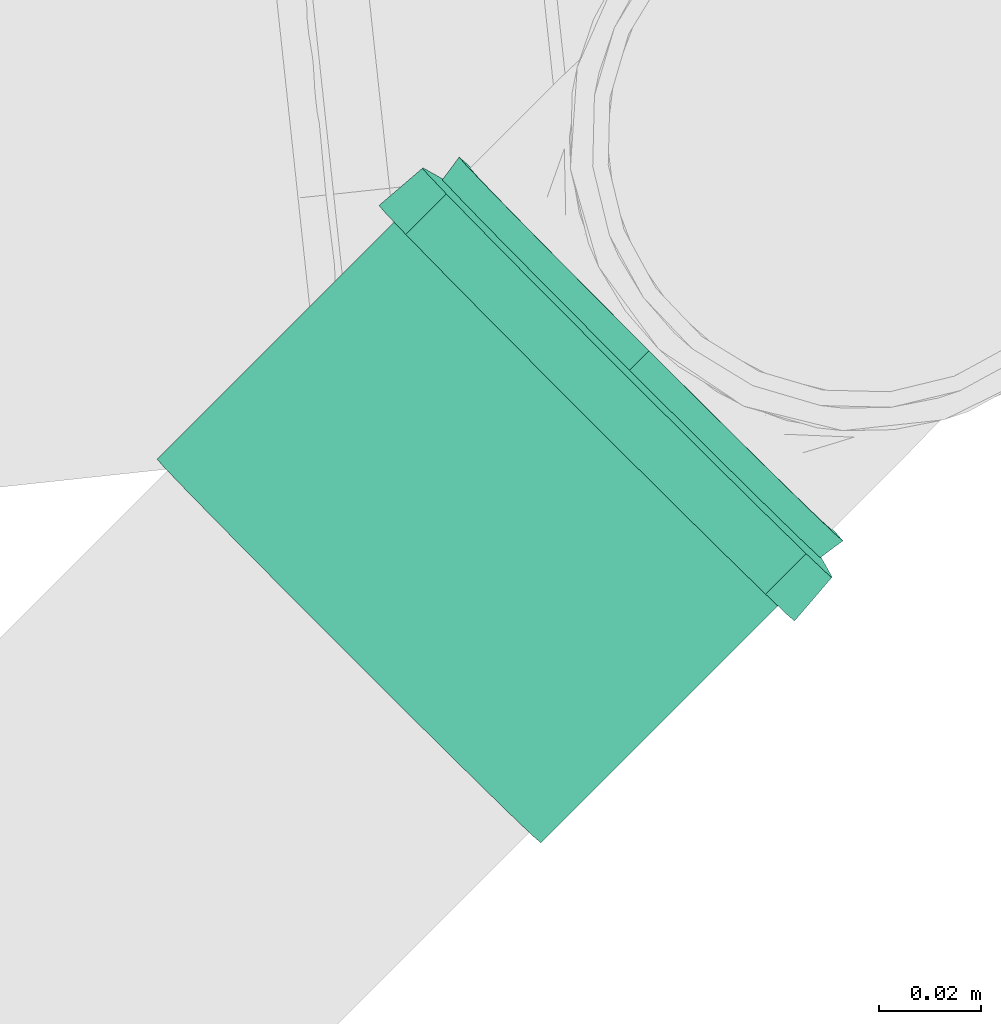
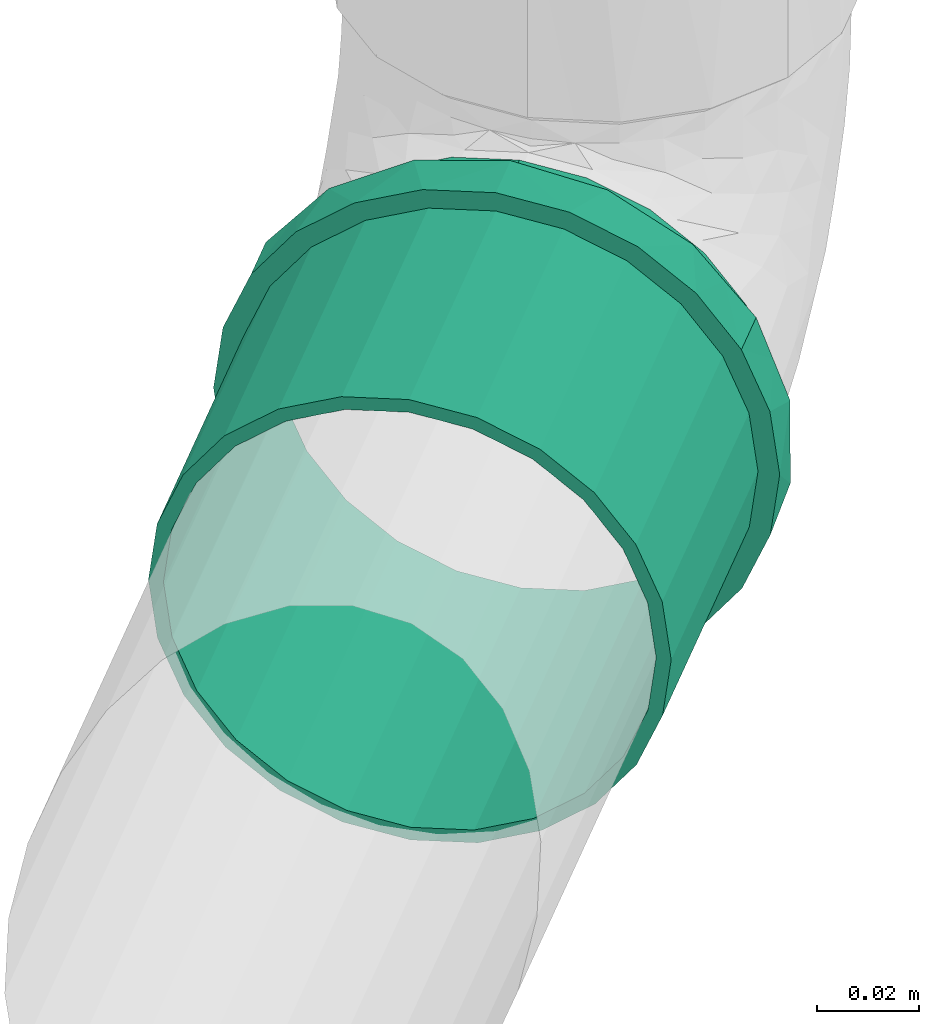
# One storey, part 46 of 97: 1 flow fitting.
"""IFC2X3 building model written with IfcOpenShell, lengths in centimetres."""

from ifc_helpers import new_model, entity, si_unit, converted_unit, derived_unit, direction, frame, origin, place, context, subcontext, project, spatial, faceted_brep, source, transform, mapped, material, type_object, type_shapes, element, save


model = new_model("IFC2X3")

# Units and contexts
model_context = context("Model", 3, precision=0.001, world=origin(), true_north=direction((6.12303176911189e-17, 1.0)))
body_context = subcontext(model_context, "Body", "Model", "MODEL_VIEW")
ifc_project = project(units=[si_unit("LENGTHUNIT", "METRE", prefix="CENTI"), si_unit("AREAUNIT", "SQUARE_METRE"), si_unit("VOLUMEUNIT", "CUBIC_METRE"), converted_unit("PLANEANGLEUNIT", "DEGREE", entity("IfcRatioMeasure", 0.0174532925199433), si_unit("PLANEANGLEUNIT", "RADIAN"), dimensions=[0, 0, 0, 0, 0, 0, 0]), si_unit("MASSUNIT", "GRAM", prefix="KILO"), derived_unit("MASSDENSITYUNIT", [(si_unit("MASSUNIT", "GRAM", prefix="KILO"), 1), (si_unit("LENGTHUNIT", "METRE"), -3)]), derived_unit("MOMENTOFINERTIAUNIT", [(si_unit("LENGTHUNIT", "METRE"), 4)]), si_unit("TIMEUNIT", "SECOND"), si_unit("FREQUENCYUNIT", "HERTZ"), si_unit("THERMODYNAMICTEMPERATUREUNIT", "DEGREE_CELSIUS"), derived_unit("THERMALTRANSMITTANCEUNIT", [(si_unit("MASSUNIT", "GRAM", prefix="KILO"), 1), (si_unit("THERMODYNAMICTEMPERATUREUNIT", "KELVIN"), -1), (si_unit("TIMEUNIT", "SECOND"), -3)]), derived_unit("VOLUMETRICFLOWRATEUNIT", [(si_unit("LENGTHUNIT", "METRE"), 3), (si_unit("TIMEUNIT", "SECOND"), -1)]), si_unit("ELECTRICCURRENTUNIT", "AMPERE"), si_unit("ELECTRICVOLTAGEUNIT", "VOLT"), si_unit("POWERUNIT", "WATT"), si_unit("FORCEUNIT", "NEWTON", prefix="KILO"), si_unit("ILLUMINANCEUNIT", "LUX"), si_unit("LUMINOUSFLUXUNIT", "LUMEN"), si_unit("LUMINOUSINTENSITYUNIT", "CANDELA"), derived_unit("USERDEFINED", [(si_unit("MASSUNIT", "GRAM", prefix="KILO"), -1), (si_unit("LENGTHUNIT", "METRE"), -2), (si_unit("TIMEUNIT", "SECOND"), 3), (si_unit("LUMINOUSFLUXUNIT", "LUMEN"), 1)]), derived_unit("LINEARVELOCITYUNIT", [(si_unit("LENGTHUNIT", "METRE"), 1), (si_unit("TIMEUNIT", "SECOND"), -1)]), si_unit("PRESSUREUNIT", "PASCAL"), derived_unit("USERDEFINED", [(si_unit("LENGTHUNIT", "METRE"), -2), (si_unit("MASSUNIT", "GRAM", prefix="KILO"), 1), (si_unit("TIMEUNIT", "SECOND"), -2)]), derived_unit("LINEARFORCEUNIT", [(si_unit("MASSUNIT", "GRAM", prefix="KILO"), 1), (si_unit("LENGTHUNIT", "METRE"), 1), (si_unit("TIMEUNIT", "SECOND"), -2), (si_unit("LENGTHUNIT", "METRE"), -1)]), derived_unit("PLANARFORCEUNIT", [(si_unit("MASSUNIT", "GRAM", prefix="KILO"), 1), (si_unit("LENGTHUNIT", "METRE"), 1), (si_unit("TIMEUNIT", "SECOND"), -2), (si_unit("LENGTHUNIT", "METRE"), -2)])], contexts=[model_context])

# Site, building, storey
site_placement = place(None, origin())
site = spatial("IfcSite", under=ifc_project, at=site_placement, Name="Default", CompositionType="ELEMENT")
building_placement = place(site_placement, origin())
building = spatial("IfcBuilding", under=site, at=building_placement, Name="HIDROSSANITÁRIO", CompositionType="ELEMENT")
storey_placement = place(building_placement, frame((0.0, 0.0, -260.0)))
storey = spatial("IfcBuildingStorey", under=building, at=storey_placement, Name="TÉRREO-HID", CompositionType="ELEMENT", Elevation=-260.0)

# Flow fitting
ifc_material = material(Name="PVC Branco")
pipe_fitting_type = type_object("IfcPipeFittingType", Name="Luva Simples para Conexão - Serie Normal - Esgoto - MEP - Tigre:Standard", PredefinedType="NOTDEFINED", material=ifc_material)
shared_shape = source(origin(), body_context, "Body", "Brep", [
    faceted_brep([(1.77700000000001, 2.8725, -4.9753159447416), (1.77700000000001, 4.06232845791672, -4.06232845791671), (1.77700000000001, 2.65249999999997, -4.59426476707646), (1.77700000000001, 1.37303503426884, -5.12423650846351), (1.77700000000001, 1.48691541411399, -5.5492438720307), (1.77700000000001, 3.75120147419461, -3.75120147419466), (1.77700000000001, 4.9753159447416, -2.8725), (1.77700000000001, 4.59426476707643, -2.65250000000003), (1.77700000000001, 5.1242365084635, -1.37303503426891), (1.77700000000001, 5.5492438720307, -1.48691541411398), (1.77700000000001, 5.305, 0.0), (1.77700000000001, 5.745, 0.0), (1.77700000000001, 5.1242365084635, 1.3730350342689), (1.77700000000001, 5.54924387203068, 1.48691541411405), (1.77700000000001, 4.59426476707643, 2.65250000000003), (1.77700000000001, 4.97531594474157, 2.87250000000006), (1.77700000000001, 3.75120147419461, 3.75120147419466), (1.77700000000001, 4.06232845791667, 4.06232845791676), (1.77700000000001, 2.65249999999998, 4.59426476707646), (1.77700000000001, 2.87249999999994, 4.97531594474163), (1.77700000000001, 1.37303503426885, 5.12423650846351), (1.77700000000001, 1.48691541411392, 5.54924387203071), (1.77700000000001, 0.0, 5.305), (1.77700000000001, 0.0, 5.745), (1.77700000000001, -1.37303503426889, 5.1242365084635), (1.77700000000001, -1.48691541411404, 5.54924387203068), (1.77700000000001, -2.65250000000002, 4.59426476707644), (1.77700000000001, -2.87250000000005, 4.97531594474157), (1.77700000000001, -3.75120147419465, 3.75120147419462), (1.77700000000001, -4.06232845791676, 4.06232845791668), (1.77700000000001, -4.59426476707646, 2.65249999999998), (1.77700000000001, -4.97531594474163, 2.87249999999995), (1.77700000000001, -5.54924387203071, 1.48691541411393), (1.77700000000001, -5.12423650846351, 1.37303503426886), (1.77700000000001, -5.745, 0.0), (1.77700000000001, -5.305, 0.0), (1.77700000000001, -5.54924387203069, -1.486915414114), (1.77700000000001, -5.12423650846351, -1.37303503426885), (1.77700000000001, -4.97531594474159, -2.87250000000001), (1.77700000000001, -4.59426476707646, -2.65249999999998), (1.77700000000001, -4.06232845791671, -4.06232845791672), (1.77700000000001, -3.75120147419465, -3.75120147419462), (1.77700000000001, -2.87249999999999, -4.97531594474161), (1.77700000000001, -2.65250000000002, -4.59426476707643), (1.77700000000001, -1.48691541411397, -5.5492438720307), (1.77700000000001, -1.3730350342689, -5.1242365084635), (1.77700000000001, 0.0, -5.745), (1.77700000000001, 0.0, -5.305), (0.657000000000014, -1.93463887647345, 5.31665771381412), (0.657000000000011, -4.4007619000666, 3.69300957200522), (0.657000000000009, -4.89962626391, 2.82901737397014), (0.657000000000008, -5.39849062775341, 1.96502517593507), (0.657000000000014, -2.87216972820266, 4.97550661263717), (0.657000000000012, -3.63646581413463, 4.3342580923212), (0.657000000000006, -5.5717453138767, 0.982512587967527), (0.657000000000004, -5.745, 0.0), (0.657000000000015, -0.997108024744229, 5.65780881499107), (0.657000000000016, 0.998234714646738, 5.65761013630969), (0.657000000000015, 0.0005633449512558, 5.65770947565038), (0.657000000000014, 3.63732887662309, 4.33353383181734), (0.657000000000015, 1.93569761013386, 5.31627233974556), (0.657000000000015, 2.87316050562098, 4.97493454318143), (0.65700000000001, 5.39888184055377, 1.96395006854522), (0.657000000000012, 4.90018954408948, 2.82804159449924), (0.657000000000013, 4.40149724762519, 3.69213312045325), (0.657000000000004, 5.745, 0.0), (0.656999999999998, 4.40149724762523, -3.6921331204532), (0.657, 4.90018954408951, -2.82804159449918), (0.657000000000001, 5.39888184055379, -1.96395006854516), (0.656999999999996, 2.87316050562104, -4.9749345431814), (0.656999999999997, 3.63732887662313, -4.3335338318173), (0.656999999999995, 1.93569761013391, -5.31627233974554), (0.656999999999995, 0.998234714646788, -5.65761013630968), (0.656999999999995, -0.997108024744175, -5.65780881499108), (0.656999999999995, 0.000563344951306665, -5.65770947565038), (0.656999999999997, -3.6364658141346, -4.33425809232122), (0.656999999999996, -2.87216972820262, -4.9755066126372), (0.656999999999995, -1.9346388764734, -5.31665771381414), (0.657000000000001, -5.39849062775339, -1.96502517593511), (0.657, -4.89962626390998, -2.82901737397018), (0.656999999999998, -4.40076190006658, -3.69300957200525), (0.657000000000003, -5.5717453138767, -0.982512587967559), (8.35200000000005, 2.6525, -4.59426476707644), (8.35200000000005, 3.75120147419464, -3.75120147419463), (8.35200000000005, 2.49999999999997, -4.33012701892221), (8.35200000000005, 1.29409522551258, -4.82962913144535), (8.35200000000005, 1.37303503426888, -5.1242365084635), (8.35200000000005, 3.53553390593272, -3.53553390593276), (8.35200000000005, 4.59426476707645, -2.6525), (8.35200000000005, 4.33012701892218, -2.50000000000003), (8.35200000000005, 4.82962913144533, -1.29409522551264), (8.35200000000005, 5.12423650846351, -1.37303503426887), (8.35200000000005, 5.0, 0.0), (8.35200000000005, 5.305, 0.0), (8.35200000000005, 4.82962913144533, 1.29409522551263), (8.35200000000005, 5.12423650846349, 1.37303503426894), (8.35200000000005, 4.33012701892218, 2.50000000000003), (8.35200000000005, 4.59426476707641, 2.65250000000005), (8.35200000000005, 3.53553390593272, 3.53553390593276), (8.35200000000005, 3.75120147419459, 3.75120147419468), (8.35200000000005, 2.49999999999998, 4.33012701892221), (8.35200000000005, 2.65249999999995, 4.59426476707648), (8.35200000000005, 1.29409522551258, 4.82962913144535), (8.35200000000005, 1.37303503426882, 5.12423650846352), (8.35200000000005, 0.0, 5.0), (8.35200000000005, 0.0, 5.305), (8.35200000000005, -1.29409522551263, 4.82962913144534), (8.35200000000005, -1.37303503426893, 5.12423650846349), (8.35200000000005, -2.50000000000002, 4.33012701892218), (8.35200000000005, -2.65250000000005, 4.59426476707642), (8.35200000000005, -3.53553390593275, 3.53553390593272), (8.35200000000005, -3.75120147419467, 3.7512014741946), (8.35200000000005, -4.3301270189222, 2.49999999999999), (8.35200000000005, -4.59426476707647, 2.65249999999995), (8.35200000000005, -5.12423650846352, 1.37303503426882), (8.35200000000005, -4.82962913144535, 1.29409522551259), (8.35200000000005, -5.305, 0.0), (8.35200000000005, -5.0, 0.0), (8.35200000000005, -5.1242365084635, -1.37303503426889), (8.35200000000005, -4.82962913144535, -1.29409522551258), (8.35200000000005, -4.59426476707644, -2.65250000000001), (8.35200000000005, -4.3301270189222, -2.49999999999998), (8.35200000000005, -3.75120147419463, -3.75120147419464), (8.35200000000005, -3.53553390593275, -3.53553390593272), (8.35200000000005, -2.65249999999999, -4.59426476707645), (8.35200000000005, -2.50000000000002, -4.33012701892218), (8.35200000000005, -1.37303503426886, -5.12423650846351), (8.35200000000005, -1.29409522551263, -4.82962913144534), (8.35200000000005, 0.0, -5.305), (8.35200000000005, 0.0, -5.0), (0.0, 2.49999999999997, -4.33012701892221), (0.0, 3.75120147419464, -3.75120147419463), (0.0, 2.6525, -4.59426476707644), (0.0, 1.29409522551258, -4.82962913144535), (0.0, 3.53553390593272, -3.53553390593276), (0.0, 4.59426476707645, -2.6525), (0.0, 4.33012701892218, -2.50000000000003), (0.0, 4.82962913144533, -1.29409522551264), (0.0, 5.12423650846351, -1.37303503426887), (0.0, 5.0, 0.0), (0.0, 5.305, 0.0), (0.0, 4.82962913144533, 1.29409522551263), (0.0, 5.12423650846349, 1.37303503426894), (0.0, 4.33012701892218, 2.50000000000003), (0.0, 4.59426476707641, 2.65250000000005), (0.0, 3.53553390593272, 3.53553390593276), (0.0, 3.75120147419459, 3.75120147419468), (0.0, 2.49999999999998, 4.33012701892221), (0.0, 2.65249999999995, 4.59426476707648), (0.0, 1.29409522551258, 4.82962913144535), (0.0, 1.37303503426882, 5.12423650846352), (0.0, 0.0, 5.0), (0.0, 0.0, 5.305), (0.0, -1.29409522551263, 4.82962913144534), (0.0, -1.37303503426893, 5.12423650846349), (0.0, -2.50000000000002, 4.33012701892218), (0.0, -2.65250000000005, 4.59426476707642), (0.0, -3.53553390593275, 3.53553390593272), (0.0, -3.75120147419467, 3.7512014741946), (0.0, -4.3301270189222, 2.49999999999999), (0.0, -4.59426476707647, 2.65249999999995), (0.0, -5.12423650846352, 1.37303503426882), (0.0, -4.82962913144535, 1.29409522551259), (0.0, -5.305, 0.0), (0.0, -5.0, 0.0), (0.0, -5.1242365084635, -1.37303503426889), (0.0, -4.82962913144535, -1.29409522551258), (0.0, -4.59426476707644, -2.65250000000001), (0.0, -4.3301270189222, -2.49999999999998), (0.0, -3.75120147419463, -3.75120147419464), (0.0, -3.53553390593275, -3.53553390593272), (0.0, -2.65249999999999, -4.59426476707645), (0.0, -2.50000000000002, -4.33012701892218), (0.0, -1.37303503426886, -5.12423650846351), (0.0, -1.29409522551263, -4.82962913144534), (0.0, 0.0, -5.305), (0.0, 0.0, -5.0), (0.0, 1.37303503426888, -5.1242365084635), (0.537000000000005, -5.305, 0.0), (0.537000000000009, -4.98507989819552, 1.81438788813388), (0.537000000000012, -4.06390540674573, 3.4099410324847), (0.537000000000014, -2.65258010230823, 4.59421851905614), (0.537000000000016, -0.921325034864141, 5.22438371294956), (0.537000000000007, 5.1449924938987, 0.907324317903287), (0.537000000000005, 5.305, 0.0), (0.537000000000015, 2.65233979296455, 4.59435725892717), (0.537000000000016, 0.921051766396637, 5.22443189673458), (0.537000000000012, 4.06372704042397, 3.41015359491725), (0.537000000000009, 4.9849849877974, 1.81464863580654), (0.537000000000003, 5.14499249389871, -0.907324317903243), (0.537000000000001, 4.98498498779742, -1.81464863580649), (0.536999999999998, 4.063727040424, -3.41015359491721), (0.536999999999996, 2.6523397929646, -4.59435725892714), (0.536999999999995, 0.921051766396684, -5.22443189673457), (0.536999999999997, -2.6525801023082, -4.59421851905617), (0.536999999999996, -0.921325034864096, -5.22438371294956), (0.536999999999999, -4.0639054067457, -3.40994103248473), (0.537000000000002, -4.98507989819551, -1.81438788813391), (5.0, -5.0, 0.0), (5.0, 5.0, 0.0)], [[[0, 1, 2]], [[0, 2, 3]], [[3, 4, 0]], [[2, 1, 5]], [[6, 5, 1]], [[5, 6, 7]], [[7, 6, 8]], [[9, 8, 6]], [[9, 10, 8]], [[10, 9, 11]], [[12, 10, 11]], [[11, 13, 12]], [[12, 13, 14]], [[15, 14, 13]], [[14, 15, 16]], [[16, 15, 17]], [[18, 16, 17]], [[17, 19, 18]], [[18, 19, 20]], [[21, 20, 19]], [[20, 21, 22]], [[22, 21, 23]], [[22, 23, 24]], [[24, 23, 25]], [[24, 25, 26]], [[27, 26, 25]], [[27, 28, 26]], [[28, 27, 29]], [[29, 30, 28]], [[31, 30, 29]], [[30, 31, 32]], [[32, 33, 30]], [[34, 33, 32]], [[34, 35, 33]], [[36, 35, 34]], [[36, 37, 35]], [[37, 36, 38]], [[38, 39, 37]], [[39, 38, 40]], [[39, 40, 41]], [[40, 42, 41]], [[41, 42, 43]], [[43, 42, 44]], [[44, 45, 43]], [[46, 45, 44]], [[4, 47, 46]], [[46, 47, 45]], [[4, 3, 47]], [[48, 27, 25]], [[31, 29, 49]], [[31, 49, 50, 51]], [[52, 53, 27]], [[32, 51, 54]], [[54, 55, 34]], [[54, 34, 32]], [[25, 56, 48]], [[49, 29, 53]], [[23, 57, 58, 56]], [[59, 19, 17]], [[27, 53, 29]], [[48, 52, 27]], [[31, 51, 32]], [[57, 23, 21]], [[60, 19, 61]], [[15, 62, 63, 64]], [[19, 60, 21]], [[15, 13, 62]], [[17, 64, 59]], [[57, 21, 60]], [[23, 56, 25]], [[15, 64, 17]], [[13, 65, 62]], [[13, 11, 65]], [[59, 61, 19]], [[65, 11, 9]], [[6, 1, 66]], [[6, 66, 67, 68]], [[69, 70, 0]], [[68, 65, 9]], [[71, 69, 0]], [[71, 0, 4]], [[4, 72, 71]], [[66, 1, 70]], [[46, 73, 74, 72]], [[75, 76, 42]], [[0, 70, 1]], [[75, 42, 40]], [[6, 68, 9]], [[73, 46, 44]], [[77, 42, 76]], [[38, 78, 79, 80]], [[42, 77, 44]], [[38, 36, 78]], [[40, 80, 75]], [[73, 44, 77]], [[46, 72, 4]], [[38, 80, 40]], [[81, 78, 36]], [[55, 81, 34]], [[34, 81, 36]], [[82, 83, 84]], [[82, 84, 85]], [[85, 86, 82]], [[84, 83, 87]], [[88, 87, 83]], [[87, 88, 89]], [[89, 88, 90]], [[91, 90, 88]], [[91, 92, 90]], [[92, 91, 93]], [[94, 92, 93]], [[93, 95, 94]], [[94, 95, 96]], [[97, 96, 95]], [[96, 97, 98]], [[98, 97, 99]], [[100, 98, 99]], [[99, 101, 100]], [[100, 101, 102]], [[103, 102, 101]], [[102, 103, 104]], [[104, 103, 105]], [[104, 105, 106]], [[106, 105, 107]], [[106, 107, 108]], [[109, 108, 107]], [[110, 108, 109]], [[110, 109, 111]], [[111, 112, 110]], [[113, 112, 111]], [[112, 113, 114]], [[114, 115, 112]], [[116, 115, 114]], [[116, 117, 115]], [[118, 117, 116]], [[118, 119, 117]], [[119, 118, 120]], [[120, 121, 119]], [[121, 120, 122]], [[121, 122, 123]], [[122, 124, 123]], [[125, 123, 124]], [[125, 124, 126]], [[126, 127, 125]], [[128, 127, 126]], [[86, 129, 128]], [[128, 129, 127]], [[86, 85, 129]], [[130, 131, 132]], [[133, 130, 132]], [[134, 131, 130]], [[131, 134, 135]], [[136, 135, 134]], [[137, 135, 136]], [[135, 137, 138]], [[137, 139, 138]], [[140, 138, 139]], [[140, 139, 141]], [[141, 142, 140]], [[143, 142, 141]], [[142, 143, 144]], [[145, 144, 143]], [[146, 144, 145]], [[146, 145, 147]], [[147, 148, 146]], [[149, 148, 147]], [[148, 149, 150]], [[151, 150, 149]], [[152, 150, 151]], [[153, 152, 151]], [[154, 152, 153]], [[155, 154, 153]], [[154, 155, 156]], [[156, 155, 157]], [[158, 156, 157]], [[157, 159, 158]], [[158, 159, 160]], [[161, 160, 159]], [[159, 162, 161]], [[161, 162, 163]], [[162, 164, 163]], [[163, 164, 165]], [[164, 166, 165]], [[167, 165, 166]], [[166, 168, 167]], [[169, 167, 168]], [[170, 169, 168]], [[170, 171, 169]], [[171, 170, 172]], [[173, 171, 172]], [[172, 174, 173]], [[173, 174, 175]], [[174, 176, 175]], [[176, 133, 177]], [[175, 176, 177]], [[132, 177, 133]], [[161, 178, 179]], [[158, 180, 181]], [[179, 180, 160]], [[181, 182, 154]], [[179, 160, 161]], [[161, 163, 178]], [[35, 116, 114, 33]], [[183, 184, 140]], [[181, 156, 158]], [[158, 160, 180]], [[181, 154, 156]], [[182, 152, 154]], [[183, 140, 142]], [[185, 150, 186]], [[187, 146, 185]], [[142, 188, 183]], [[187, 188, 144]], [[185, 148, 150]], [[150, 152, 186]], [[187, 144, 146]], [[146, 148, 185]], [[188, 142, 144]], [[186, 152, 182]], [[189, 190, 138]], [[131, 191, 192]], [[190, 191, 135]], [[192, 193, 177]], [[190, 135, 138]], [[184, 189, 140]], [[192, 132, 131]], [[131, 135, 191]], [[192, 177, 132]], [[193, 175, 177]], [[140, 189, 138]], [[194, 173, 195]], [[196, 169, 194]], [[165, 197, 178]], [[196, 197, 167]], [[165, 178, 163]], [[35, 37, 118, 116]], [[194, 171, 173]], [[173, 175, 195]], [[196, 167, 169]], [[169, 171, 194]], [[197, 165, 167]], [[195, 175, 193]], [[115, 117, 198, 164, 162]], [[155, 108, 110, 157]], [[110, 112, 159, 157]], [[112, 115, 162, 159]], [[106, 108, 155, 153]], [[153, 151, 104, 106]], [[102, 104, 151, 149]], [[102, 149, 147, 100]], [[141, 94, 96, 143]], [[96, 98, 145, 143]], [[98, 100, 147, 145]], [[92, 94, 141, 139, 199]], [[199, 139, 137, 90, 92]], [[87, 89, 136, 134]], [[134, 130, 84, 87]], [[89, 90, 137, 136]], [[85, 84, 130, 133]], [[133, 176, 129, 85]], [[127, 129, 176, 174]], [[127, 174, 172, 125]], [[166, 119, 121, 168]], [[121, 123, 170, 168]], [[123, 125, 172, 170]], [[117, 119, 166, 164, 198]], [[81, 178, 197]], [[190, 68, 67]], [[194, 75, 196]], [[193, 72, 74]], [[195, 77, 194]], [[79, 197, 196]], [[81, 55, 178]], [[192, 69, 71]], [[79, 78, 197]], [[194, 77, 76]], [[191, 66, 70]], [[80, 196, 75]], [[68, 190, 189]], [[74, 195, 193]], [[192, 71, 193]], [[190, 67, 191]], [[70, 192, 191]], [[65, 189, 184]], [[195, 73, 77]], [[193, 71, 72]], [[197, 78, 81]], [[191, 67, 66]], [[189, 65, 68]], [[196, 80, 79]], [[70, 69, 192]], [[194, 76, 75]], [[73, 195, 74]], [[65, 183, 62]], [[48, 56, 182]], [[58, 182, 56]], [[54, 51, 179]], [[59, 185, 61]], [[60, 186, 57]], [[53, 52, 181]], [[63, 187, 64]], [[58, 57, 186]], [[187, 63, 188]], [[186, 60, 185]], [[50, 49, 180]], [[185, 59, 187]], [[59, 64, 187]], [[182, 58, 186]], [[50, 179, 51]], [[54, 178, 55]], [[53, 180, 49]], [[63, 62, 188]], [[181, 48, 182]], [[183, 65, 184]], [[179, 50, 180]], [[178, 54, 179]], [[183, 188, 62]], [[180, 53, 181]], [[60, 61, 185]], [[48, 181, 52]], [[30, 33, 114, 113]], [[26, 28, 111, 109]], [[113, 111, 28, 30]], [[107, 24, 26, 109]], [[107, 105, 22, 24]], [[18, 20, 103, 101]], [[99, 16, 18, 101]], [[12, 14, 97, 95]], [[99, 97, 14, 16]], [[10, 12, 95, 93]], [[103, 20, 22, 105]], [[91, 8, 10, 93]], [[88, 7, 8, 91]], [[82, 86, 3, 2]], [[83, 5, 7, 88]], [[2, 5, 83, 82]], [[86, 128, 47, 3]], [[43, 45, 126, 124]], [[122, 41, 43, 124]], [[37, 39, 120, 118]], [[122, 120, 39, 41]], [[126, 45, 47, 128]]]),
])
type_shapes(pipe_fitting_type, [shared_shape])
flow_fitting_placement = place(storey_placement, frame((2812.3962744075, 2845.76058316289, -30.4284037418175), z_axis=(-0.707119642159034, 0.707093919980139, 0.0), x_axis=(-0.707058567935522, -0.707084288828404, -0.00999950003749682)))
element("IfcFlowFitting", 1, at=flow_fitting_placement, inside=storey, type_object=pipe_fitting_type, material=ifc_material, Name="Luva Simples para Conexão - Serie Normal - Esgoto - MEP - Tigre:Standard", ObjectType="Luva Simples para Conexão - Serie Normal - Esgoto - MEP - Tigre:Standard", context=body_context, shape_type="MappedRepresentation", body=[
    mapped(shared_shape, transform((0.0, 0.0, 0.0), scale=1.0)),
])

save(model, "model.ifc")
